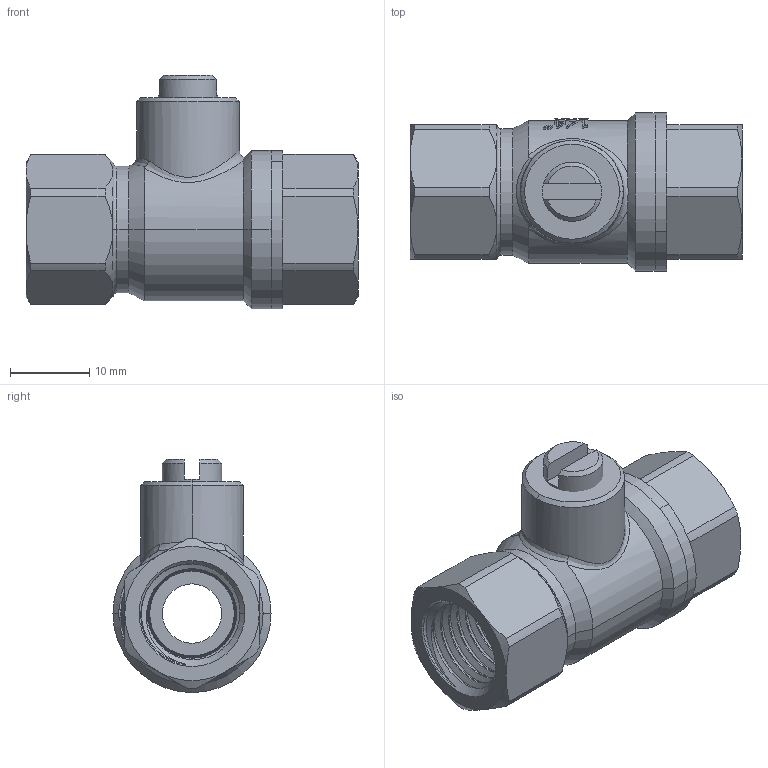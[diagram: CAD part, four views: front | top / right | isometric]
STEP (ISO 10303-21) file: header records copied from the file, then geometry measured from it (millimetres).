
FILE_DESCRIPTION(('Open CASCADE Model'),'2;1');
FILE_NAME('Open CASCADE Shape Model','2021-12-15T12:04:21',('Author'),( 'Open CASCADE'),'Open CASCADE STEP processor 7.3','Open CASCADE 7.3' ,'Unknown');
FILE_SCHEMA(('AUTOMOTIVE_DESIGN { 1 0 10303 214 1 1 1 1 }'));
Length unit declared in the file: millimetre
Products named in the file (9): Open CASCADE STEP translator 7.3 1; Open CASCADE STEP translator 7.3 1.1; Open CASCADE STEP translator 7.3 1.2; Open CASCADE STEP translator 7.3 1.3; Open CASCADE STEP translator 7.3 1.4; Open CASCADE STEP translator 7.3 1.5; Open CASCADE STEP translator 7.3 1.6; Open CASCADE STEP translator 7.3 1.7; Open CASCADE STEP translator 7.3 1.8
Assembly tree (8 placements, depth 2):
  Open CASCADE STEP translator 7.3 1
    Open CASCADE STEP translator 7.3 1.1
    Open CASCADE STEP translator 7.3 1.2
    Open CASCADE STEP translator 7.3 1.3
    Open CASCADE STEP translator 7.3 1.4
    Open CASCADE STEP translator 7.3 1.5
    Open CASCADE STEP translator 7.3 1.6
    Open CASCADE STEP translator 7.3 1.7
    Open CASCADE STEP translator 7.3 1.8
Bounding box: 42 x 20 x 29.5 mm (x, y, z)
Volume: 8043.2 mm3; surface area: 8737.2 mm2
Topology: 8 solids, 8 shells, 400 faces, 1001 edges, 639 vertices
Faces by surface type: cylinder 106, bspline 92, plane 91, cone 73, torus 30, sphere 6, revolution 2
Entity records: 71764 total; most frequent: CARTESIAN_POINT 54179, DIRECTION 2478, ORIENTED_EDGE 1998, PCURVE 1998, DEFINITIONAL_REPRESENTATION 1998, B_SPLINE_CURVE_WITH_KNOTS 1293, LINE 1171, VECTOR 1171
